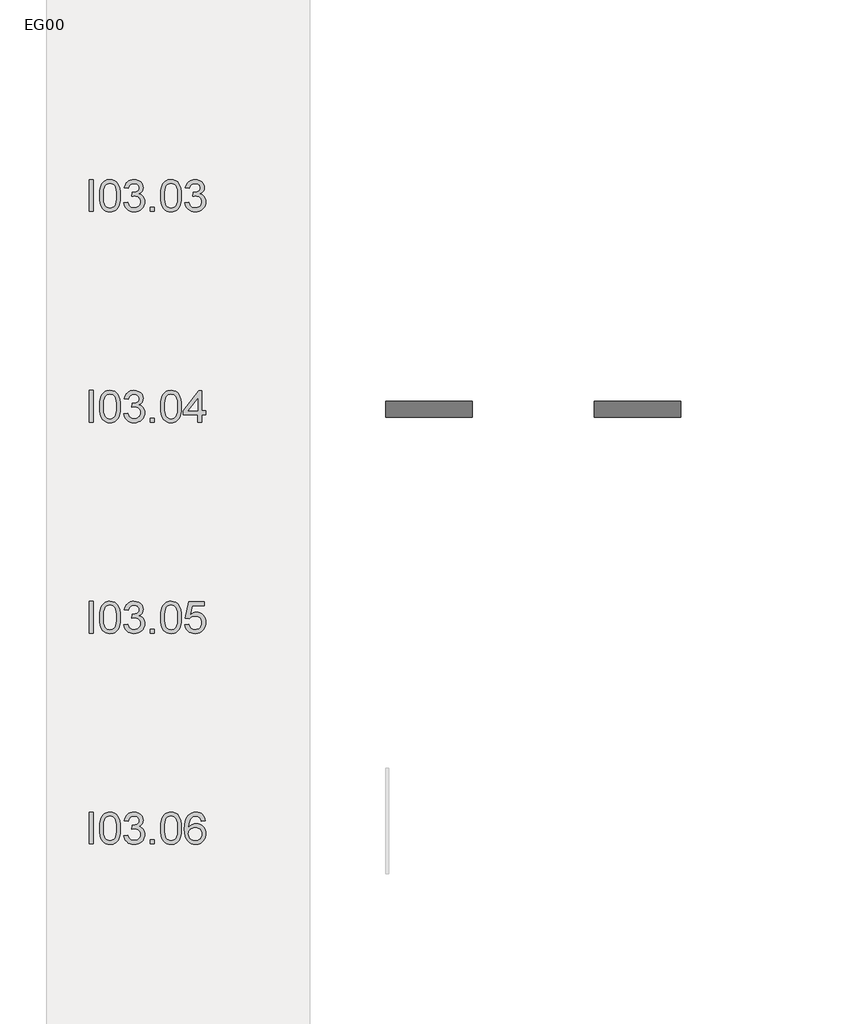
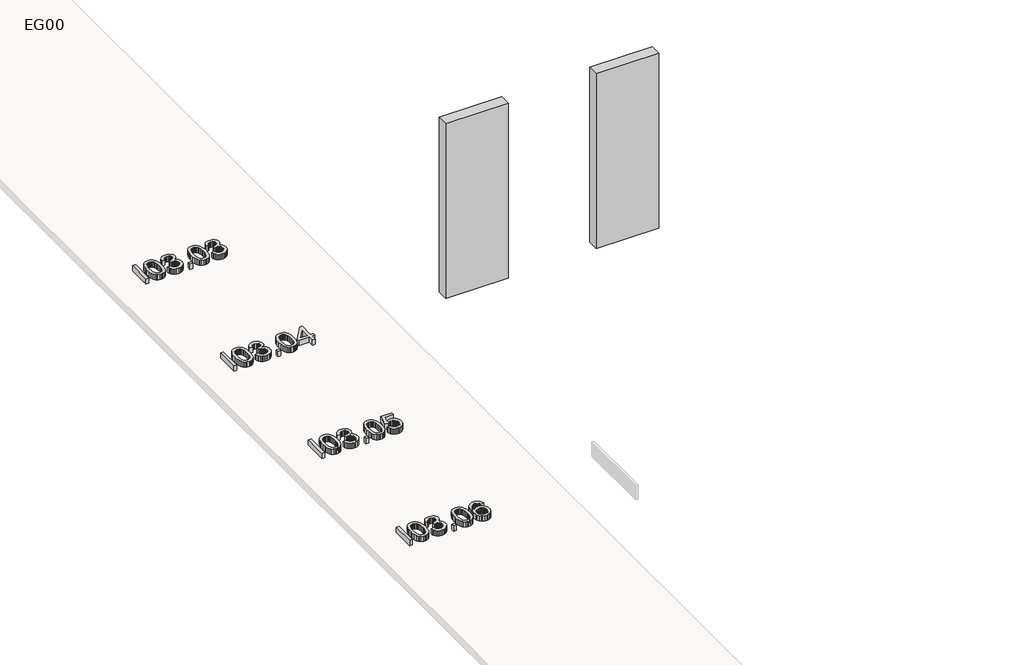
# One storey, part 8 of 11: 4 proxies, 2 geographic elements.
"""IFC4 building model written with IfcOpenShell, lengths in millimetres."""

import ifcopenshell
import ifcopenshell.guid

model = None  # the IFC model being written
_history = None  # IfcOwnerHistory: only IFC2X3 demands one
_inside = {}  # id of a spatial element -> (the spatial element, [elements in it])
_under = {}  # id of a project, library or spatial element -> (it, [spatial elements below it])
_declared = {}  # id of a project -> (the project, [libraries it declares])
_typed = {}  # id of a type object -> (the type object, [elements of that type])
_made_of = {}  # id of a material, layer set ... -> (it, [elements and type objects made of it])


def new_model(schema):
    """Start an empty IFC model of exactly this schema.

    Asked for "IFC4X3", IfcOpenShell would pick the latest addendum, in which some entities
    have other attributes; the version numbers below select the first issue.
    IFC2X3 requires an IfcOwnerHistory on every rooted entity: one is made here for all.
    """
    global model, _history
    if schema == "IFC4X3":
        model = ifcopenshell.file(schema_version=(4, 3, 0, 0))
    else:
        model = ifcopenshell.file(schema=schema)
    _inside.clear()
    _under.clear()
    _declared.clear()
    _typed.clear()
    _made_of.clear()
    _history = None
    if model.schema == "IFC2X3":
        org = make("IfcOrganization", Name="unknown")
        user = make(
            "IfcPersonAndOrganization",
            ThePerson=make("IfcPerson", FamilyName="unknown"),
            TheOrganization=org,
        )
        app = make(
            "IfcApplication",
            ApplicationDeveloper=org,
            Version="unknown",
            ApplicationFullName="unknown",
            ApplicationIdentifier="unknown",
        )
        _history = make(
            "IfcOwnerHistory",
            OwningUser=user,
            OwningApplication=app,
            ChangeAction="ADDED",
            CreationDate=0,
        )
    return model


def make(cls, **values):
    """One entity of the class cls with the attributes given. An attribute that is None is left unset."""
    return model.create_entity(
        cls, **{name: value for name, value in values.items() if value is not None}
    )


def rooted(cls, **values):
    """An entity with a GlobalId (a new one), such as an element, a storey or a relation."""
    return make(cls, GlobalId=ifcopenshell.guid.new(), OwnerHistory=_history, **values)


def si_unit(unit_type, name, prefix=None):
    """IfcSIUnit, for example si_unit("LENGTHUNIT", "METRE", prefix="MILLI")."""
    return make("IfcSIUnit", UnitType=unit_type, Prefix=prefix, Name=name)


def assignment(units):
    """IfcUnitAssignment: the units of a project."""
    return None if units is None else make("IfcUnitAssignment", Units=units)


def point(xyz):
    """IfcCartesianPoint."""
    return None if xyz is None else make("IfcCartesianPoint", Coordinates=xyz)


def direction(xyz):
    """IfcDirection."""
    return None if xyz is None else make("IfcDirection", DirectionRatios=xyz)


def frame(location, z_axis=None, x_axis=None):
    """IfcAxis2Placement3D, a coordinate frame: its origin and axes. An axis left out is left unset."""
    return make(
        "IfcAxis2Placement3D",
        Location=point(location),
        Axis=direction(z_axis),
        RefDirection=direction(x_axis),
    )


def origin():
    """The frame at (0, 0, 0) with its axes left unset."""
    return frame((0.0, 0.0, 0.0))


def origin_with_axes():
    """The frame at (0, 0, 0) with the z axis (0, 0, 1) and the x axis (1, 0, 0) written out."""
    return frame((0.0, 0.0, 0.0), z_axis=(0.0, 0.0, 1.0), x_axis=(1.0, 0.0, 0.0))


def place(relative_to, where):
    """IfcLocalPlacement: puts the frame where relative to a parent placement (None: the world)."""
    return make(
        "IfcLocalPlacement", PlacementRelTo=relative_to, RelativePlacement=where
    )


def context(
    kind, dimensions, precision=None, world=None, true_north=None, identifier=None
):
    """IfcGeometricRepresentationContext, for example the 3D "Model" context."""
    return make(
        "IfcGeometricRepresentationContext",
        ContextIdentifier=identifier,
        ContextType=kind,
        CoordinateSpaceDimension=dimensions,
        Precision=precision,
        WorldCoordinateSystem=world,
        TrueNorth=true_north,
    )


def project(units=None, contexts=None):
    """IfcProject with its units and contexts."""
    return rooted(
        "IfcProject",
        Name="project",
        RepresentationContexts=contexts,
        UnitsInContext=assignment(units),
    )


def spatial(cls, under=None, at=None, **own):
    """A site, building, storey or space (cls), placed at a placement, below another one or the project."""
    s = rooted(cls, ObjectPlacement=at, **own)
    if under is not None:
        _under.setdefault(under.id(), (under, []))[1].append(s)
    return s


def polyline(points):
    """IfcPolyline through the points."""
    return make("IfcPolyline", Points=[point(p) for p in points])


def outline(outer, holes=None, kind="AREA"):
    """IfcArbitraryClosedProfileDef: a profile drawn as a closed curve; with holes, ...WithVoids."""
    if holes is None:
        return make("IfcArbitraryClosedProfileDef", ProfileType=kind, OuterCurve=outer)
    return make(
        "IfcArbitraryProfileDefWithVoids",
        ProfileType=kind,
        OuterCurve=outer,
        InnerCurves=holes,
    )


def extrude(swept, where, along, depth):
    """IfcExtrudedAreaSolid: the profile swept, set in the frame where, extruded along a direction by depth."""
    return make(
        "IfcExtrudedAreaSolid",
        SweptArea=swept,
        Position=where,
        ExtrudedDirection=direction(along),
        Depth=depth,
    )


def shape(context_of_items, identifier, shape_type, items):
    """IfcShapeRepresentation: the items that make up one representation, for example the "Body"."""
    return make(
        "IfcShapeRepresentation",
        ContextOfItems=context_of_items,
        RepresentationIdentifier=identifier,
        RepresentationType=shape_type,
        Items=items,
    )


def source(mapping_origin, context_of_items, identifier, shape_type, items):
    """IfcRepresentationMap: a shape defined once, which mapped items show again and again."""
    return make(
        "IfcRepresentationMap",
        MappingOrigin=mapping_origin,
        MappedRepresentation=shape(context_of_items, identifier, shape_type, items),
    )


def transform(
    local_origin,
    x_axis=None,
    y_axis=None,
    z_axis=None,
    scale=None,
    scale2=None,
    scale3=None,
    uniform=True,
):
    """IfcCartesianTransformationOperator3D, or its non-uniform kind. x_axis, y_axis, z_axis: its Axis1, 2, 3."""
    if uniform:
        return make(
            "IfcCartesianTransformationOperator3D",
            Axis1=direction(x_axis),
            Axis2=direction(y_axis),
            LocalOrigin=point(local_origin),
            Scale=scale,
            Axis3=direction(z_axis),
        )
    return make(
        "IfcCartesianTransformationOperator3DnonUniform",
        Axis1=direction(x_axis),
        Axis2=direction(y_axis),
        LocalOrigin=point(local_origin),
        Scale=scale,
        Axis3=direction(z_axis),
        Scale2=scale2,
        Scale3=scale3,
    )


def mapped(mapping_source, mapping_target):
    """IfcMappedItem: shows the shape of a source again, moved by a transform."""
    return make(
        "IfcMappedItem", MappingSource=mapping_source, MappingTarget=mapping_target
    )


def made_of(thing, what):
    """Note that an element or type object is made of a material, layer set ...; save() writes the relation."""
    if what is not None:
        _made_of.setdefault(what.id(), (what, []))[1].append(thing)
    return thing


def element(
    cls,
    number,
    at=None,
    inside=None,
    cuts=None,
    type_object=None,
    material=None,
    context=None,
    identifier="Body",
    shape_type=None,
    held_by="IfcProductDefinitionShape",
    body=None,
    shapes=None,
    **own,
):
    """One element of the class cls, such as IfcWall. Its Tag is "e" and its number.

    at: its placement. inside: the storey or other place that contains it. cuts: it is an
    opening in that element (IfcRelVoidsElement). A single representation is given by context,
    identifier, shape_type and body (its items); several are given by shapes. held_by: the class
    of the entity that holds the representations. save() writes the other relations.
    """
    e = rooted(cls, Tag="e%d" % number, ObjectPlacement=at, **own)
    if body is not None:
        shapes = [shape(context, identifier, shape_type, body)]
    if shapes is not None:
        e.Representation = make(held_by, Representations=shapes)
    if inside is not None:
        _inside.setdefault(inside.id(), (inside, []))[1].append(e)
    if cuts is not None:
        rooted(
            "IfcRelVoidsElement", RelatingBuildingElement=cuts, RelatedOpeningElement=e
        )
    if type_object is not None:
        _typed.setdefault(type_object.id(), (type_object, []))[1].append(e)
    return made_of(e, material)


def aggregate(whole, parts):
    """IfcRelAggregates: a whole, such as a stair, and the parts it consists of."""
    return rooted("IfcRelAggregates", RelatingObject=whole, RelatedObjects=parts)


def save(model, path):
    """Write the relations noted so far, then the file.

    IfcRelAggregates (storeys below a building ...), IfcRelContainedInSpatialStructure (elements
    in a storey), IfcRelDefinesByType, IfcRelAssociatesMaterial and IfcRelDeclares: one each for
    every whole, place, type object, material and project.
    """
    for whole, parts in _under.values():
        aggregate(whole, parts)
    for where, things in _inside.values():
        rooted(
            "IfcRelContainedInSpatialStructure",
            RelatedElements=things,
            RelatingStructure=where,
        )
    for kind, things in _typed.values():
        rooted("IfcRelDefinesByType", RelatedObjects=things, RelatingType=kind)
    for what, things in _made_of.values():
        rooted("IfcRelAssociatesMaterial", RelatedObjects=things, RelatingMaterial=what)
    for by, libraries in _declared.values():
        rooted("IfcRelDeclares", RelatingContext=by, RelatedDefinitions=libraries)
    model.write(path)


def geographic_element_ed2dfa5e(model_context):
    return source(origin(), model_context, "Body", "SweptSolid", [
        extrude(outline(polyline([(820.6394348, 0.4411732), (-821.1992595, 0.4411732), (-821.1992595, 300.4411732), (820.6394348, 300.4411732), (820.6394348, 0.4411732)])), origin_with_axes(), (0.0, 0.0, 1.0), 4861.7807301),
    ])


model = new_model("IFC4")

# Units and contexts
model_context = context("Model", 3, world=origin())
ifc_project = project(units=[si_unit("LENGTHUNIT", "METRE", prefix="MILLI")], contexts=[model_context])

# Site, building, storey
site = spatial("IfcSite", under=ifc_project)
building = spatial("IfcBuilding", under=site)
storey = spatial("IfcBuildingStorey", under=building, Name="EG00", Elevation=0.0)

# Proxies
placement = place(None, origin())
element("IfcBuildingElementProxy", 1, Name="600mm Arial", ObjectType="600mm Arial", at=placement, inside=storey, context=model_context, shape_type="SweptSolid", body=[
    extrude(outline(polyline([(41098.4530284, -46070.0529019), (41098.4530284, -45467.315041), (41173.795261, -45467.315041), (41173.795261, -46070.0529019), (41098.4530284, -46070.0529019)])), origin_with_axes(), (0.0, 0.0, 1.0), 150.0),
    extrude(outline(polyline([(41296.226389, -45773.5400137), (41301.763013, -45677.0629605), (41308.6837931, -45636.1498841), (41318.3728851, -45600.1204412), (41330.7889025, -45568.6803262), (41345.8904584, -45541.5352335), (41363.6775528, -45518.6851631), (41384.1501859, -45500.1301149), (41407.3773353, -45485.7735201), (41433.4279791, -45475.5188095), (41462.3021172, -45469.3659831), (41493.9997496, -45467.315041), (41540.4264574, -45472.1710833), (41581.9971229, -45486.7392103), (41616.7619714, -45510.4492049), (41642.7712285, -45542.73085), (41662.416127, -45583.308234), (41678.0879, -45631.9054456), (41688.3518077, -45693.6176503), (41691.7731102, -45773.5400137), (41686.2916685, -45869.465244), (41679.4398663, -45910.2403646), (41669.8473433, -45946.2238223), (41657.527895, -45977.6777329), (41642.495317, -46004.8642123), (41624.7496092, -46027.7832606), (41604.2907718, -46046.4348778), (41581.0360312, -46060.8880417), (41554.9026139, -46071.2117301), (41525.8905201, -46077.4059432), (41493.9997496, -46079.4706809), (41452.5026606, -46075.8838315), (41415.7144611, -46065.1232831), (41383.6351511, -46047.1890359), (41356.2647306, -46022.0810897), (41329.9979562, -45976.6936485), (41311.2359744, -45920.1409888), (41299.9787854, -45852.4231106), (41296.226389, -45773.5400137)]), holes=[polyline([(41371.5686216, -45773.3928609), (41373.7759136, -45838.8896517), (41380.3977895, -45891.9060457), (41391.4342494, -45932.442043), (41406.8852932, -45960.4976437), (41425.5736985, -45979.5861207), (41446.3222431, -45993.2207472), (41469.1309268, -46001.401523), (41493.9997496, -46004.1284483), (41518.8685725, -46001.392326), (41541.6772562, -45993.183959), (41562.4258007, -45979.5033473), (41581.1142061, -45960.3504909), (41596.5652499, -45932.248905), (41607.6017097, -45891.7221047), (41614.2235857, -45838.77009), (41616.4308776, -45773.3928609), (41614.2971621, -45709.6297141), (41607.8960153, -45657.5468207), (41597.2274375, -45617.1441805), (41582.2914285, -45588.4217938), (41563.9157228, -45568.3998162), (41542.928055, -45554.0984036), (41519.328425, -45545.5175561), (41493.1168328, -45542.6572736), (41468.3767687, -45545.1772652), (41445.9543611, -45552.7372402), (41425.84961, -45565.3371986), (41408.0625156, -45582.9771402), (41392.096437, -45614.2471098), (41380.6920951, -45656.4063865), (41373.84949, -45709.4549702), (41371.5686216, -45773.3928609)])]), origin_with_axes(), (0.0, 0.0, 1.0), 150.0),
    extrude(outline(polyline([(41757.6975638, -45909.9506576), (41833.0397964, -45900.5328785), (41849.9071859, -45947.8792913), (41861.279338, -45965.7859474), (41874.6104618, -45979.8482366), (41890.2040599, -45990.4708293), (41908.3636349, -45998.0583954), (41929.0891868, -46002.6109351), (41952.3807156, -46004.1284483), (41979.6775597, -46002.040718), (42004.0313477, -45995.777527), (42025.4420799, -45985.3388754), (42043.909756, -45970.7247632), (42058.7813857, -45953.0296392), (42069.4039783, -45933.3479525), (42075.7775338, -45911.6797029), (42077.9020524, -45888.0248906), (42075.7959279, -45865.496717), (42069.4775547, -45845.0010913), (42058.9469326, -45826.5380137), (42044.2040616, -45810.1074841), (42026.214632, -45796.6200104), (42005.9443341, -45786.9861007), (41983.3931678, -45781.2057548), (41958.5611331, -45779.2789729), (41934.759168, -45781.339112), (41905.7332786, -45787.5195296), (41914.1209881, -45712.177297), (41926.1875176, -45713.0602137), (41971.3266384, -45707.6523484), (42011.6832932, -45691.4287524), (42028.2931653, -45679.1598879), (42040.1573597, -45663.9847556), (42047.2758763, -45645.9033555), (42049.6487151, -45624.9156877), (42047.9288668, -45607.8781528), (42042.7693218, -45592.3765252), (42034.1700802, -45578.410805), (42022.1311419, -45565.9809921), (42007.3790739, -45555.7768652), (41990.6404431, -45548.4882032), (41951.2034932, -45542.6572736), (41930.5469192, -45544.1288016), (41911.692967, -45548.5433855), (41894.6416365, -45555.9010254), (41879.3929278, -45566.2017213), (41866.3239199, -45579.4454731), (41855.8116919, -45595.6322809), (41847.8562437, -45614.7621446), (41842.4575755, -45636.8350643), (41767.1153428, -45627.4172853), (41776.0456783, -45591.4476232), (41789.2986272, -45559.7637864), (41806.8741895, -45532.3657748), (41828.7723652, -45509.2535884), (41854.3033757, -45490.9054739), (41882.7774421, -45477.7996778), (41914.1945645, -45469.9362002), (41948.5547429, -45467.315041), (41995.9195497, -45472.483783), (42039.4215957, -45487.9900091), (42076.0994306, -45512.4541618), (42102.9916044, -45544.4966836), (42119.4911119, -45581.4136418), (42124.9909478, -45620.5011038), (42119.7670234, -45656.9214213), (42104.0952504, -45689.9572244), (42078.196358, -45718.1001971), (42042.2910752, -45739.842023), (42067.3990214, -45747.6963036), (42089.453547, -45758.8983103), (42108.4546521, -45773.4480432), (42124.4023366, -45791.3455023), (42137.020689, -45812.1492291), (42146.0337979, -45835.4177653), (42151.4416632, -45861.1511109), (42153.244285, -45889.3492658), (42149.6390414, -45927.5722051), (42138.8233108, -45962.7785121), (42120.797093, -45994.9681866), (42095.5603881, -46024.1412289), (42064.8146504, -46048.3478641), (42030.261334, -46065.6383179), (41991.9004389, -46076.0125902), (41949.7319653, -46079.4706809), (41911.6193906, -46076.5184279), (41876.8913302, -46067.6616689), (41845.5477842, -46052.9004038), (41817.5887526, -46032.2346328), (41794.1454724, -46006.8783662), (41776.3491809, -45978.0456149), (41764.199878, -45945.7363786), (41757.6975638, -45909.9506576)])), origin_with_axes(), (0.0, 0.0, 1.0), 150.0),
    extrude(outline(polyline([(42256.8398548, -46070.0529019), (42256.8398548, -45994.7106692), (42332.1820874, -45994.7106692), (42332.1820874, -46070.0529019), (42256.8398548, -46070.0529019)])), origin_with_axes(), (0.0, 0.0, 1.0), 150.0),
    extrude(outline(polyline([(42454.6132154, -45773.5400137), (42460.1498395, -45677.0629605), (42467.0706195, -45636.1498841), (42476.7597115, -45600.1204412), (42489.1757289, -45568.6803262), (42504.2772848, -45541.5352335), (42522.0643792, -45518.6851631), (42542.5370123, -45500.1301149), (42565.7641618, -45485.7735201), (42591.8148055, -45475.5188095), (42620.6889436, -45469.3659831), (42652.386576, -45467.315041), (42698.8132838, -45472.1710833), (42740.3839493, -45486.7392103), (42775.1487978, -45510.4492049), (42801.1580549, -45542.73085), (42820.8029534, -45583.308234), (42836.4747264, -45631.9054456), (42846.7386341, -45693.6176503), (42850.1599366, -45773.5400137), (42844.6784949, -45869.465244), (42837.8266928, -45910.2403646), (42828.2341697, -45946.2238223), (42815.9147214, -45977.6777329), (42800.8821434, -46004.8642123), (42783.1364357, -46027.7832606), (42762.6775982, -46046.4348778), (42739.4228576, -46060.8880417), (42713.2894403, -46071.2117301), (42684.2773465, -46077.4059432), (42652.386576, -46079.4706809), (42610.889487, -46075.8838315), (42574.1012875, -46065.1232831), (42542.0219775, -46047.1890359), (42514.651557, -46022.0810897), (42488.3847826, -45976.6936485), (42469.6228008, -45920.1409888), (42458.3656118, -45852.4231106), (42454.6132154, -45773.5400137)]), holes=[polyline([(42529.955448, -45773.3928609), (42532.16274, -45838.8896517), (42538.7846159, -45891.9060457), (42549.8210758, -45932.442043), (42565.2721196, -45960.4976437), (42583.9605249, -45979.5861207), (42604.7090695, -45993.2207472), (42627.5177532, -46001.401523), (42652.386576, -46004.1284483), (42677.2553989, -46001.392326), (42700.0640826, -45993.183959), (42720.8126271, -45979.5033473), (42739.5010325, -45960.3504909), (42754.9520763, -45932.248905), (42765.9885362, -45891.7221047), (42772.6104121, -45838.77009), (42774.817704, -45773.3928609), (42772.6839885, -45709.6297141), (42766.2828417, -45657.5468207), (42755.6142639, -45617.1441805), (42740.6782549, -45588.4217938), (42722.3025492, -45568.3998162), (42701.3148814, -45554.0984036), (42677.7152514, -45545.5175561), (42651.5036593, -45542.6572736), (42626.7635951, -45545.1772652), (42604.3411875, -45552.7372402), (42584.2364364, -45565.3371986), (42566.449342, -45582.9771402), (42550.4832634, -45614.2471098), (42539.0789215, -45656.4063865), (42532.2363164, -45709.4549702), (42529.955448, -45773.3928609)])]), origin_with_axes(), (0.0, 0.0, 1.0), 150.0),
    extrude(outline(polyline([(42916.0843902, -45909.9506576), (42991.4266228, -45900.5328785), (43008.2940123, -45947.8792913), (43019.6661644, -45965.7859474), (43032.9972882, -45979.8482366), (43048.5908863, -45990.4708293), (43066.7504613, -45998.0583954), (43087.4760132, -46002.6109351), (43110.767542, -46004.1284483), (43138.0643861, -46002.040718), (43162.4181742, -45995.777527), (43183.8289063, -45985.3388754), (43202.2965824, -45970.7247632), (43217.1682121, -45953.0296392), (43227.7908047, -45933.3479525), (43234.1643603, -45911.6797029), (43236.2888788, -45888.0248906), (43234.1827544, -45865.496717), (43227.8643811, -45845.0010913), (43217.333759, -45826.5380137), (43202.590888, -45810.1074841), (43184.6014585, -45796.6200104), (43164.3311605, -45786.9861007), (43141.7799942, -45781.2057548), (43116.9479595, -45779.2789729), (43093.1459945, -45781.339112), (43064.120105, -45787.5195296), (43072.5078145, -45712.177297), (43084.574344, -45713.0602137), (43129.7134648, -45707.6523484), (43170.0701197, -45691.4287524), (43186.6799917, -45679.1598879), (43198.5441861, -45663.9847556), (43205.6627027, -45645.9033555), (43208.0355416, -45624.9156877), (43206.3156932, -45607.8781528), (43201.1561482, -45592.3765252), (43192.5569066, -45578.410805), (43180.5179683, -45565.9809921), (43165.7659003, -45555.7768652), (43149.0272695, -45548.4882032), (43109.5903196, -45542.6572736), (43088.9337456, -45544.1288016), (43070.0797934, -45548.5433855), (43053.0284629, -45555.9010254), (43037.7797542, -45566.2017213), (43024.7107463, -45579.4454731), (43014.1985183, -45595.6322809), (43006.2430702, -45614.7621446), (43000.8444019, -45636.8350643), (42925.5021693, -45627.4172853), (42934.4325047, -45591.4476232), (42947.6854536, -45559.7637864), (42965.2610159, -45532.3657748), (42987.1591917, -45509.2535884), (43012.6902021, -45490.9054739), (43041.1642685, -45477.7996778), (43072.5813909, -45469.9362002), (43106.9415693, -45467.315041), (43154.3063762, -45472.483783), (43197.8084221, -45487.9900091), (43234.486257, -45512.4541618), (43261.3784309, -45544.4966836), (43277.8779383, -45581.4136418), (43283.3777742, -45620.5011038), (43278.1538498, -45656.9214213), (43262.4820768, -45689.9572244), (43236.5831844, -45718.1001971), (43200.6779017, -45739.842023), (43225.7858478, -45747.6963036), (43247.8403734, -45758.8983103), (43266.8414785, -45773.4480432), (43282.789163, -45791.3455023), (43295.4075154, -45812.1492291), (43304.4206243, -45835.4177653), (43309.8284896, -45861.1511109), (43311.6311114, -45889.3492658), (43308.0258678, -45927.5722051), (43297.2101372, -45962.7785121), (43279.1839194, -45994.9681866), (43253.9472146, -46024.1412289), (43223.2014768, -46048.3478641), (43188.6481604, -46065.6383179), (43150.2872654, -46076.0125902), (43108.1187917, -46079.4706809), (43070.006217, -46076.5184279), (43035.2781566, -46067.6616689), (43003.9346106, -46052.9004038), (42975.975579, -46032.2346328), (42952.5322989, -46006.8783662), (42934.7360073, -45978.0456149), (42922.5867044, -45945.7363786), (42916.0843902, -45909.9506576)])), origin_with_axes(), (0.0, 0.0, 1.0), 150.0),
])
element("IfcBuildingElementProxy", 2, Name="600mm Arial", ObjectType="600mm Arial", at=placement, inside=storey, context=model_context, shape_type="SweptSolid", body=[
    extrude(outline(polyline([(41098.4530284, -50070.0529019), (41098.4530284, -49467.315041), (41173.795261, -49467.315041), (41173.795261, -50070.0529019), (41098.4530284, -50070.0529019)])), origin_with_axes(), (0.0, 0.0, 1.0), 150.0),
    extrude(outline(polyline([(41296.226389, -49773.5400137), (41301.763013, -49677.0629605), (41308.6837931, -49636.1498841), (41318.3728851, -49600.1204412), (41330.7889025, -49568.6803262), (41345.8904584, -49541.5352335), (41363.6775528, -49518.6851631), (41384.1501859, -49500.1301149), (41407.3773353, -49485.7735201), (41433.4279791, -49475.5188095), (41462.3021172, -49469.3659831), (41493.9997496, -49467.315041), (41540.4264574, -49472.1710833), (41581.9971229, -49486.7392103), (41616.7619714, -49510.4492049), (41642.7712285, -49542.73085), (41662.416127, -49583.308234), (41678.0879, -49631.9054456), (41688.3518077, -49693.6176503), (41691.7731102, -49773.5400137), (41686.2916685, -49869.465244), (41679.4398663, -49910.2403646), (41669.8473433, -49946.2238223), (41657.527895, -49977.6777329), (41642.495317, -50004.8642123), (41624.7496092, -50027.7832606), (41604.2907718, -50046.4348778), (41581.0360312, -50060.8880417), (41554.9026139, -50071.2117301), (41525.8905201, -50077.4059432), (41493.9997496, -50079.4706809), (41452.5026606, -50075.8838315), (41415.7144611, -50065.1232831), (41383.6351511, -50047.1890359), (41356.2647306, -50022.0810897), (41329.9979562, -49976.6936485), (41311.2359744, -49920.1409888), (41299.9787854, -49852.4231106), (41296.226389, -49773.5400137)]), holes=[polyline([(41371.5686216, -49773.3928609), (41373.7759136, -49838.8896517), (41380.3977895, -49891.9060457), (41391.4342494, -49932.442043), (41406.8852932, -49960.4976437), (41425.5736985, -49979.5861207), (41446.3222431, -49993.2207472), (41469.1309268, -50001.401523), (41493.9997496, -50004.1284483), (41518.8685725, -50001.392326), (41541.6772562, -49993.183959), (41562.4258007, -49979.5033473), (41581.1142061, -49960.3504909), (41596.5652499, -49932.248905), (41607.6017097, -49891.7221047), (41614.2235857, -49838.77009), (41616.4308776, -49773.3928609), (41614.2971621, -49709.6297141), (41607.8960153, -49657.5468207), (41597.2274375, -49617.1441805), (41582.2914285, -49588.4217938), (41563.9157228, -49568.3998162), (41542.928055, -49554.0984036), (41519.328425, -49545.5175561), (41493.1168328, -49542.6572736), (41468.3767687, -49545.1772652), (41445.9543611, -49552.7372402), (41425.84961, -49565.3371986), (41408.0625156, -49582.9771402), (41392.096437, -49614.2471098), (41380.6920951, -49656.4063865), (41373.84949, -49709.4549702), (41371.5686216, -49773.3928609)])]), origin_with_axes(), (0.0, 0.0, 1.0), 150.0),
    extrude(outline(polyline([(41757.6975638, -49909.9506576), (41833.0397964, -49900.5328785), (41849.9071859, -49947.8792913), (41861.279338, -49965.7859474), (41874.6104618, -49979.8482366), (41890.2040599, -49990.4708293), (41908.3636349, -49998.0583954), (41929.0891868, -50002.6109351), (41952.3807156, -50004.1284483), (41979.6775597, -50002.040718), (42004.0313477, -49995.777527), (42025.4420799, -49985.3388754), (42043.909756, -49970.7247632), (42058.7813857, -49953.0296392), (42069.4039783, -49933.3479525), (42075.7775338, -49911.6797029), (42077.9020524, -49888.0248906), (42075.7959279, -49865.496717), (42069.4775547, -49845.0010913), (42058.9469326, -49826.5380137), (42044.2040616, -49810.1074841), (42026.214632, -49796.6200104), (42005.9443341, -49786.9861007), (41983.3931678, -49781.2057548), (41958.5611331, -49779.2789729), (41934.759168, -49781.339112), (41905.7332786, -49787.5195296), (41914.1209881, -49712.177297), (41926.1875176, -49713.0602137), (41971.3266384, -49707.6523484), (42011.6832932, -49691.4287524), (42028.2931653, -49679.1598879), (42040.1573597, -49663.9847556), (42047.2758763, -49645.9033555), (42049.6487151, -49624.9156877), (42047.9288668, -49607.8781528), (42042.7693218, -49592.3765252), (42034.1700802, -49578.410805), (42022.1311419, -49565.9809921), (42007.3790739, -49555.7768652), (41990.6404431, -49548.4882032), (41951.2034932, -49542.6572736), (41930.5469192, -49544.1288016), (41911.692967, -49548.5433855), (41894.6416365, -49555.9010254), (41879.3929278, -49566.2017213), (41866.3239199, -49579.4454731), (41855.8116919, -49595.6322809), (41847.8562437, -49614.7621446), (41842.4575755, -49636.8350643), (41767.1153428, -49627.4172853), (41776.0456783, -49591.4476232), (41789.2986272, -49559.7637864), (41806.8741895, -49532.3657748), (41828.7723652, -49509.2535884), (41854.3033757, -49490.9054739), (41882.7774421, -49477.7996778), (41914.1945645, -49469.9362002), (41948.5547429, -49467.315041), (41995.9195497, -49472.483783), (42039.4215957, -49487.9900091), (42076.0994306, -49512.4541618), (42102.9916044, -49544.4966836), (42119.4911119, -49581.4136418), (42124.9909478, -49620.5011038), (42119.7670234, -49656.9214213), (42104.0952504, -49689.9572244), (42078.196358, -49718.1001971), (42042.2910752, -49739.842023), (42067.3990214, -49747.6963036), (42089.453547, -49758.8983103), (42108.4546521, -49773.4480432), (42124.4023366, -49791.3455023), (42137.020689, -49812.1492291), (42146.0337979, -49835.4177653), (42151.4416632, -49861.1511109), (42153.244285, -49889.3492658), (42149.6390414, -49927.5722051), (42138.8233108, -49962.7785121), (42120.797093, -49994.9681866), (42095.5603881, -50024.1412289), (42064.8146504, -50048.3478641), (42030.261334, -50065.6383179), (41991.9004389, -50076.0125902), (41949.7319653, -50079.4706809), (41911.6193906, -50076.5184279), (41876.8913302, -50067.6616689), (41845.5477842, -50052.9004038), (41817.5887526, -50032.2346328), (41794.1454724, -50006.8783662), (41776.3491809, -49978.0456149), (41764.199878, -49945.7363786), (41757.6975638, -49909.9506576)])), origin_with_axes(), (0.0, 0.0, 1.0), 150.0),
    extrude(outline(polyline([(42256.8398548, -50070.0529019), (42256.8398548, -49994.7106692), (42332.1820874, -49994.7106692), (42332.1820874, -50070.0529019), (42256.8398548, -50070.0529019)])), origin_with_axes(), (0.0, 0.0, 1.0), 150.0),
    extrude(outline(polyline([(42454.6132154, -49773.5400137), (42460.1498395, -49677.0629605), (42467.0706195, -49636.1498841), (42476.7597115, -49600.1204412), (42489.1757289, -49568.6803262), (42504.2772848, -49541.5352335), (42522.0643792, -49518.6851631), (42542.5370123, -49500.1301149), (42565.7641618, -49485.7735201), (42591.8148055, -49475.5188095), (42620.6889436, -49469.3659831), (42652.386576, -49467.315041), (42698.8132838, -49472.1710833), (42740.3839493, -49486.7392103), (42775.1487978, -49510.4492049), (42801.1580549, -49542.73085), (42820.8029534, -49583.308234), (42836.4747264, -49631.9054456), (42846.7386341, -49693.6176503), (42850.1599366, -49773.5400137), (42844.6784949, -49869.465244), (42837.8266928, -49910.2403646), (42828.2341697, -49946.2238223), (42815.9147214, -49977.6777329), (42800.8821434, -50004.8642123), (42783.1364357, -50027.7832606), (42762.6775982, -50046.4348778), (42739.4228576, -50060.8880417), (42713.2894403, -50071.2117301), (42684.2773465, -50077.4059432), (42652.386576, -50079.4706809), (42610.889487, -50075.8838315), (42574.1012875, -50065.1232831), (42542.0219775, -50047.1890359), (42514.651557, -50022.0810897), (42488.3847826, -49976.6936485), (42469.6228008, -49920.1409888), (42458.3656118, -49852.4231106), (42454.6132154, -49773.5400137)]), holes=[polyline([(42529.955448, -49773.3928609), (42532.16274, -49838.8896517), (42538.7846159, -49891.9060457), (42549.8210758, -49932.442043), (42565.2721196, -49960.4976437), (42583.9605249, -49979.5861207), (42604.7090695, -49993.2207472), (42627.5177532, -50001.401523), (42652.386576, -50004.1284483), (42677.2553989, -50001.392326), (42700.0640826, -49993.183959), (42720.8126271, -49979.5033473), (42739.5010325, -49960.3504909), (42754.9520763, -49932.248905), (42765.9885362, -49891.7221047), (42772.6104121, -49838.77009), (42774.817704, -49773.3928609), (42772.6839885, -49709.6297141), (42766.2828417, -49657.5468207), (42755.6142639, -49617.1441805), (42740.6782549, -49588.4217938), (42722.3025492, -49568.3998162), (42701.3148814, -49554.0984036), (42677.7152514, -49545.5175561), (42651.5036593, -49542.6572736), (42626.7635951, -49545.1772652), (42604.3411875, -49552.7372402), (42584.2364364, -49565.3371986), (42566.449342, -49582.9771402), (42550.4832634, -49614.2471098), (42539.0789215, -49656.4063865), (42532.2363164, -49709.4549702), (42529.955448, -49773.3928609)])]), origin_with_axes(), (0.0, 0.0, 1.0), 150.0),
    extrude(outline(polyline([(43160.9466462, -50070.0529019), (43160.9466462, -49928.7862157), (42887.831053, -49928.7862157), (42887.831053, -49853.4439831), (43179.7822043, -49476.73282), (43236.2888788, -49476.73282), (43236.2888788, -49853.4439831), (43311.6311114, -49853.4439831), (43311.6311114, -49928.7862157), (43236.2888788, -49928.7862157), (43236.2888788, -50070.0529019), (43160.9466462, -50070.0529019)]), holes=[polyline([(43160.9466462, -49853.4439831), (43160.9466462, -49620.6482566), (42980.5373157, -49853.4439831), (43160.9466462, -49853.4439831)])]), origin_with_axes(), (0.0, 0.0, 1.0), 150.0),
])
element("IfcBuildingElementProxy", 3, Name="600mm Arial", ObjectType="600mm Arial", at=placement, inside=storey, context=model_context, shape_type="SweptSolid", body=[
    extrude(outline(polyline([(41098.4530284, -54070.0529019), (41098.4530284, -53467.315041), (41173.795261, -53467.315041), (41173.795261, -54070.0529019), (41098.4530284, -54070.0529019)])), origin_with_axes(), (0.0, 0.0, 1.0), 150.0),
    extrude(outline(polyline([(41296.226389, -53773.5400137), (41301.763013, -53677.0629605), (41308.6837931, -53636.1498841), (41318.3728851, -53600.1204412), (41330.7889025, -53568.6803262), (41345.8904584, -53541.5352335), (41363.6775528, -53518.6851631), (41384.1501859, -53500.1301149), (41407.3773353, -53485.7735201), (41433.4279791, -53475.5188095), (41462.3021172, -53469.3659831), (41493.9997496, -53467.315041), (41540.4264574, -53472.1710833), (41581.9971229, -53486.7392103), (41616.7619714, -53510.4492049), (41642.7712285, -53542.73085), (41662.416127, -53583.308234), (41678.0879, -53631.9054456), (41688.3518077, -53693.6176503), (41691.7731102, -53773.5400137), (41686.2916685, -53869.465244), (41679.4398663, -53910.2403646), (41669.8473433, -53946.2238223), (41657.527895, -53977.6777329), (41642.495317, -54004.8642123), (41624.7496092, -54027.7832606), (41604.2907718, -54046.4348778), (41581.0360312, -54060.8880417), (41554.9026139, -54071.2117301), (41525.8905201, -54077.4059432), (41493.9997496, -54079.4706809), (41452.5026606, -54075.8838315), (41415.7144611, -54065.1232831), (41383.6351511, -54047.1890359), (41356.2647306, -54022.0810897), (41329.9979562, -53976.6936485), (41311.2359744, -53920.1409888), (41299.9787854, -53852.4231106), (41296.226389, -53773.5400137)]), holes=[polyline([(41371.5686216, -53773.3928609), (41373.7759136, -53838.8896517), (41380.3977895, -53891.9060457), (41391.4342494, -53932.442043), (41406.8852932, -53960.4976437), (41425.5736985, -53979.5861207), (41446.3222431, -53993.2207472), (41469.1309268, -54001.401523), (41493.9997496, -54004.1284483), (41518.8685725, -54001.392326), (41541.6772562, -53993.183959), (41562.4258007, -53979.5033473), (41581.1142061, -53960.3504909), (41596.5652499, -53932.248905), (41607.6017097, -53891.7221047), (41614.2235857, -53838.77009), (41616.4308776, -53773.3928609), (41614.2971621, -53709.6297141), (41607.8960153, -53657.5468207), (41597.2274375, -53617.1441805), (41582.2914285, -53588.4217938), (41563.9157228, -53568.3998162), (41542.928055, -53554.0984036), (41519.328425, -53545.5175561), (41493.1168328, -53542.6572736), (41468.3767687, -53545.1772652), (41445.9543611, -53552.7372402), (41425.84961, -53565.3371986), (41408.0625156, -53582.9771402), (41392.096437, -53614.2471098), (41380.6920951, -53656.4063865), (41373.84949, -53709.4549702), (41371.5686216, -53773.3928609)])]), origin_with_axes(), (0.0, 0.0, 1.0), 150.0),
    extrude(outline(polyline([(41757.6975638, -53909.9506576), (41833.0397964, -53900.5328785), (41849.9071859, -53947.8792913), (41861.279338, -53965.7859474), (41874.6104618, -53979.8482366), (41890.2040599, -53990.4708293), (41908.3636349, -53998.0583954), (41929.0891868, -54002.6109351), (41952.3807156, -54004.1284483), (41979.6775597, -54002.040718), (42004.0313477, -53995.777527), (42025.4420799, -53985.3388754), (42043.909756, -53970.7247632), (42058.7813857, -53953.0296392), (42069.4039783, -53933.3479525), (42075.7775338, -53911.6797029), (42077.9020524, -53888.0248906), (42075.7959279, -53865.496717), (42069.4775547, -53845.0010913), (42058.9469326, -53826.5380137), (42044.2040616, -53810.1074841), (42026.214632, -53796.6200104), (42005.9443341, -53786.9861007), (41983.3931678, -53781.2057548), (41958.5611331, -53779.2789729), (41934.759168, -53781.339112), (41905.7332786, -53787.5195296), (41914.1209881, -53712.177297), (41926.1875176, -53713.0602137), (41971.3266384, -53707.6523484), (42011.6832932, -53691.4287524), (42028.2931653, -53679.1598879), (42040.1573597, -53663.9847556), (42047.2758763, -53645.9033555), (42049.6487151, -53624.9156877), (42047.9288668, -53607.8781528), (42042.7693218, -53592.3765252), (42034.1700802, -53578.410805), (42022.1311419, -53565.9809921), (42007.3790739, -53555.7768652), (41990.6404431, -53548.4882032), (41951.2034932, -53542.6572736), (41930.5469192, -53544.1288016), (41911.692967, -53548.5433855), (41894.6416365, -53555.9010254), (41879.3929278, -53566.2017213), (41866.3239199, -53579.4454731), (41855.8116919, -53595.6322809), (41847.8562437, -53614.7621446), (41842.4575755, -53636.8350643), (41767.1153428, -53627.4172853), (41776.0456783, -53591.4476232), (41789.2986272, -53559.7637864), (41806.8741895, -53532.3657748), (41828.7723652, -53509.2535884), (41854.3033757, -53490.9054739), (41882.7774421, -53477.7996778), (41914.1945645, -53469.9362002), (41948.5547429, -53467.315041), (41995.9195497, -53472.483783), (42039.4215957, -53487.9900091), (42076.0994306, -53512.4541618), (42102.9916044, -53544.4966836), (42119.4911119, -53581.4136418), (42124.9909478, -53620.5011038), (42119.7670234, -53656.9214213), (42104.0952504, -53689.9572244), (42078.196358, -53718.1001971), (42042.2910752, -53739.842023), (42067.3990214, -53747.6963036), (42089.453547, -53758.8983103), (42108.4546521, -53773.4480432), (42124.4023366, -53791.3455023), (42137.020689, -53812.1492291), (42146.0337979, -53835.4177653), (42151.4416632, -53861.1511109), (42153.244285, -53889.3492658), (42149.6390414, -53927.5722051), (42138.8233108, -53962.7785121), (42120.797093, -53994.9681866), (42095.5603881, -54024.1412289), (42064.8146504, -54048.3478641), (42030.261334, -54065.6383179), (41991.9004389, -54076.0125902), (41949.7319653, -54079.4706809), (41911.6193906, -54076.5184279), (41876.8913302, -54067.6616689), (41845.5477842, -54052.9004038), (41817.5887526, -54032.2346328), (41794.1454724, -54006.8783662), (41776.3491809, -53978.0456149), (41764.199878, -53945.7363786), (41757.6975638, -53909.9506576)])), origin_with_axes(), (0.0, 0.0, 1.0), 150.0),
    extrude(outline(polyline([(42256.8398548, -54070.0529019), (42256.8398548, -53994.7106692), (42332.1820874, -53994.7106692), (42332.1820874, -54070.0529019), (42256.8398548, -54070.0529019)])), origin_with_axes(), (0.0, 0.0, 1.0), 150.0),
    extrude(outline(polyline([(42454.6132154, -53773.5400137), (42460.1498395, -53677.0629605), (42467.0706195, -53636.1498841), (42476.7597115, -53600.1204412), (42489.1757289, -53568.6803262), (42504.2772848, -53541.5352335), (42522.0643792, -53518.6851631), (42542.5370123, -53500.1301149), (42565.7641618, -53485.7735201), (42591.8148055, -53475.5188095), (42620.6889436, -53469.3659831), (42652.386576, -53467.315041), (42698.8132838, -53472.1710833), (42740.3839493, -53486.7392103), (42775.1487978, -53510.4492049), (42801.1580549, -53542.73085), (42820.8029534, -53583.308234), (42836.4747264, -53631.9054456), (42846.7386341, -53693.6176503), (42850.1599366, -53773.5400137), (42844.6784949, -53869.465244), (42837.8266928, -53910.2403646), (42828.2341697, -53946.2238223), (42815.9147214, -53977.6777329), (42800.8821434, -54004.8642123), (42783.1364357, -54027.7832606), (42762.6775982, -54046.4348778), (42739.4228576, -54060.8880417), (42713.2894403, -54071.2117301), (42684.2773465, -54077.4059432), (42652.386576, -54079.4706809), (42610.889487, -54075.8838315), (42574.1012875, -54065.1232831), (42542.0219775, -54047.1890359), (42514.651557, -54022.0810897), (42488.3847826, -53976.6936485), (42469.6228008, -53920.1409888), (42458.3656118, -53852.4231106), (42454.6132154, -53773.5400137)]), holes=[polyline([(42529.955448, -53773.3928609), (42532.16274, -53838.8896517), (42538.7846159, -53891.9060457), (42549.8210758, -53932.442043), (42565.2721196, -53960.4976437), (42583.9605249, -53979.5861207), (42604.7090695, -53993.2207472), (42627.5177532, -54001.401523), (42652.386576, -54004.1284483), (42677.2553989, -54001.392326), (42700.0640826, -53993.183959), (42720.8126271, -53979.5033473), (42739.5010325, -53960.3504909), (42754.9520763, -53932.248905), (42765.9885362, -53891.7221047), (42772.6104121, -53838.77009), (42774.817704, -53773.3928609), (42772.6839885, -53709.6297141), (42766.2828417, -53657.5468207), (42755.6142639, -53617.1441805), (42740.6782549, -53588.4217938), (42722.3025492, -53568.3998162), (42701.3148814, -53554.0984036), (42677.7152514, -53545.5175561), (42651.5036593, -53542.6572736), (42626.7635951, -53545.1772652), (42604.3411875, -53552.7372402), (42584.2364364, -53565.3371986), (42566.449342, -53582.9771402), (42550.4832634, -53614.2471098), (42539.0789215, -53656.4063865), (42532.2363164, -53709.4549702), (42529.955448, -53773.3928609)])]), origin_with_axes(), (0.0, 0.0, 1.0), 150.0),
    extrude(outline(polyline([(42916.0843902, -53909.9506576), (42991.4266228, -53900.5328785), (42997.0552173, -53924.7533093), (43005.2589858, -53945.7639698), (43016.0379283, -53963.5648598), (43029.3920447, -53978.1559795), (43045.2937439, -53989.5189346), (43063.7154348, -53997.6353311), (43084.6571174, -54002.505169), (43108.1187917, -54004.1284483), (43136.8135873, -54001.8705726), (43162.1238686, -53995.0969453), (43184.0496355, -53983.8075666), (43202.590888, -53968.0024364), (43217.333759, -53948.4633039), (43227.8643811, -53925.9719184), (43234.1827544, -53900.52828), (43236.2888788, -53872.1323885), (43234.3161116, -53845.2953969), (43228.39781, -53821.4382495), (43218.533974, -53800.5609463), (43204.7246036, -53782.6634872), (43186.9237136, -53768.3068924), (43165.0853186, -53758.0521818), (43139.2094188, -53751.8993554), (43109.296014, -53749.8484133), (43072.7469378, -53753.122563), (43043.1508313, -53762.9450123), (43019.5144131, -53777.9913859), (43000.8444019, -53796.9373086), (42925.5021693, -53787.5195296), (42991.4266228, -53476.73282), (43283.3777742, -53476.73282), (43283.3777742, -53552.0750527), (43052.3478812, -53552.0750527), (43020.1214184, -53718.0634089), (43046.7100896, -53699.0071215), (43073.9425543, -53685.3954877), (43101.8188125, -53677.2285074), (43130.3388642, -53674.5061806), (43167.0304947, -53677.881498), (43200.733084, -53688.0074499), (43231.446632, -53704.8840364), (43259.1711389, -53728.5112575), (43282.1223769, -53757.4451765), (43298.5161183, -53790.2418563), (43308.3523631, -53826.9012971), (43311.6311114, -53867.4234989), (43308.6788584, -53906.4557786), (43299.8220994, -53942.7657315), (43285.0608343, -53976.3533577), (43264.3950632, -54007.2186571), (43233.0883054, -54038.8289175), (43196.5576233, -54061.407675), (43154.8030169, -54074.9549294), (43107.8244861, -54079.4706809), (43068.9439577, -54076.5690117), (43033.8250227, -54067.864004), (43002.4676812, -54053.3556578), (42974.871933, -54033.0439731), (42951.911498, -54007.9406255), (42934.4600958, -53979.0572904), (42922.5177266, -53946.3939677), (42916.0843902, -53909.9506576)])), origin_with_axes(), (0.0, 0.0, 1.0), 150.0),
])
element("IfcBuildingElementProxy", 4, Name="600mm Arial", ObjectType="600mm Arial", at=placement, inside=storey, context=model_context, shape_type="SweptSolid", body=[
    extrude(outline(polyline([(41098.4530284, -58070.0529019), (41098.4530284, -57467.315041), (41173.795261, -57467.315041), (41173.795261, -58070.0529019), (41098.4530284, -58070.0529019)])), origin_with_axes(), (0.0, 0.0, 1.0), 150.0),
    extrude(outline(polyline([(41296.226389, -57773.5400137), (41301.763013, -57677.0629605), (41308.6837931, -57636.1498841), (41318.3728851, -57600.1204412), (41330.7889025, -57568.6803262), (41345.8904584, -57541.5352335), (41363.6775528, -57518.6851631), (41384.1501859, -57500.1301149), (41407.3773353, -57485.7735201), (41433.4279791, -57475.5188095), (41462.3021172, -57469.3659831), (41493.9997496, -57467.315041), (41540.4264574, -57472.1710833), (41581.9971229, -57486.7392103), (41616.7619714, -57510.4492049), (41642.7712285, -57542.73085), (41662.416127, -57583.308234), (41678.0879, -57631.9054456), (41688.3518077, -57693.6176503), (41691.7731102, -57773.5400137), (41686.2916685, -57869.465244), (41679.4398663, -57910.2403646), (41669.8473433, -57946.2238223), (41657.527895, -57977.6777329), (41642.495317, -58004.8642123), (41624.7496092, -58027.7832606), (41604.2907718, -58046.4348778), (41581.0360312, -58060.8880417), (41554.9026139, -58071.2117301), (41525.8905201, -58077.4059432), (41493.9997496, -58079.4706809), (41452.5026606, -58075.8838315), (41415.7144611, -58065.1232831), (41383.6351511, -58047.1890359), (41356.2647306, -58022.0810897), (41329.9979562, -57976.6936485), (41311.2359744, -57920.1409888), (41299.9787854, -57852.4231106), (41296.226389, -57773.5400137)]), holes=[polyline([(41371.5686216, -57773.3928609), (41373.7759136, -57838.8896517), (41380.3977895, -57891.9060457), (41391.4342494, -57932.442043), (41406.8852932, -57960.4976437), (41425.5736985, -57979.5861207), (41446.3222431, -57993.2207472), (41469.1309268, -58001.401523), (41493.9997496, -58004.1284483), (41518.8685725, -58001.392326), (41541.6772562, -57993.183959), (41562.4258007, -57979.5033473), (41581.1142061, -57960.3504909), (41596.5652499, -57932.248905), (41607.6017097, -57891.7221047), (41614.2235857, -57838.77009), (41616.4308776, -57773.3928609), (41614.2971621, -57709.6297141), (41607.8960153, -57657.5468207), (41597.2274375, -57617.1441805), (41582.2914285, -57588.4217938), (41563.9157228, -57568.3998162), (41542.928055, -57554.0984036), (41519.328425, -57545.5175561), (41493.1168328, -57542.6572736), (41468.3767687, -57545.1772652), (41445.9543611, -57552.7372402), (41425.84961, -57565.3371986), (41408.0625156, -57582.9771402), (41392.096437, -57614.2471098), (41380.6920951, -57656.4063865), (41373.84949, -57709.4549702), (41371.5686216, -57773.3928609)])]), origin_with_axes(), (0.0, 0.0, 1.0), 150.0),
    extrude(outline(polyline([(41757.6975638, -57909.9506576), (41833.0397964, -57900.5328785), (41849.9071859, -57947.8792913), (41861.279338, -57965.7859474), (41874.6104618, -57979.8482366), (41890.2040599, -57990.4708293), (41908.3636349, -57998.0583954), (41929.0891868, -58002.6109351), (41952.3807156, -58004.1284483), (41979.6775597, -58002.040718), (42004.0313477, -57995.777527), (42025.4420799, -57985.3388754), (42043.909756, -57970.7247632), (42058.7813857, -57953.0296392), (42069.4039783, -57933.3479525), (42075.7775338, -57911.6797029), (42077.9020524, -57888.0248906), (42075.7959279, -57865.496717), (42069.4775547, -57845.0010913), (42058.9469326, -57826.5380137), (42044.2040616, -57810.1074841), (42026.214632, -57796.6200104), (42005.9443341, -57786.9861007), (41983.3931678, -57781.2057548), (41958.5611331, -57779.2789729), (41934.759168, -57781.339112), (41905.7332786, -57787.5195296), (41914.1209881, -57712.177297), (41926.1875176, -57713.0602137), (41971.3266384, -57707.6523484), (42011.6832932, -57691.4287524), (42028.2931653, -57679.1598879), (42040.1573597, -57663.9847556), (42047.2758763, -57645.9033555), (42049.6487151, -57624.9156877), (42047.9288668, -57607.8781528), (42042.7693218, -57592.3765252), (42034.1700802, -57578.410805), (42022.1311419, -57565.9809921), (42007.3790739, -57555.7768652), (41990.6404431, -57548.4882032), (41951.2034932, -57542.6572736), (41930.5469192, -57544.1288016), (41911.692967, -57548.5433855), (41894.6416365, -57555.9010254), (41879.3929278, -57566.2017213), (41866.3239199, -57579.4454731), (41855.8116919, -57595.6322809), (41847.8562437, -57614.7621446), (41842.4575755, -57636.8350643), (41767.1153428, -57627.4172853), (41776.0456783, -57591.4476232), (41789.2986272, -57559.7637864), (41806.8741895, -57532.3657748), (41828.7723652, -57509.2535884), (41854.3033757, -57490.9054739), (41882.7774421, -57477.7996778), (41914.1945645, -57469.9362002), (41948.5547429, -57467.315041), (41995.9195497, -57472.483783), (42039.4215957, -57487.9900091), (42076.0994306, -57512.4541618), (42102.9916044, -57544.4966836), (42119.4911119, -57581.4136418), (42124.9909478, -57620.5011038), (42119.7670234, -57656.9214213), (42104.0952504, -57689.9572244), (42078.196358, -57718.1001971), (42042.2910752, -57739.842023), (42067.3990214, -57747.6963036), (42089.453547, -57758.8983103), (42108.4546521, -57773.4480432), (42124.4023366, -57791.3455023), (42137.020689, -57812.1492291), (42146.0337979, -57835.4177653), (42151.4416632, -57861.1511109), (42153.244285, -57889.3492658), (42149.6390414, -57927.5722051), (42138.8233108, -57962.7785121), (42120.797093, -57994.9681866), (42095.5603881, -58024.1412289), (42064.8146504, -58048.3478641), (42030.261334, -58065.6383179), (41991.9004389, -58076.0125902), (41949.7319653, -58079.4706809), (41911.6193906, -58076.5184279), (41876.8913302, -58067.6616689), (41845.5477842, -58052.9004038), (41817.5887526, -58032.2346328), (41794.1454724, -58006.8783662), (41776.3491809, -57978.0456149), (41764.199878, -57945.7363786), (41757.6975638, -57909.9506576)])), origin_with_axes(), (0.0, 0.0, 1.0), 150.0),
    extrude(outline(polyline([(42256.8398548, -58070.0529019), (42256.8398548, -57994.7106692), (42332.1820874, -57994.7106692), (42332.1820874, -58070.0529019), (42256.8398548, -58070.0529019)])), origin_with_axes(), (0.0, 0.0, 1.0), 150.0),
    extrude(outline(polyline([(42454.6132154, -57773.5400137), (42460.1498395, -57677.0629605), (42467.0706195, -57636.1498841), (42476.7597115, -57600.1204412), (42489.1757289, -57568.6803262), (42504.2772848, -57541.5352335), (42522.0643792, -57518.6851631), (42542.5370123, -57500.1301149), (42565.7641618, -57485.7735201), (42591.8148055, -57475.5188095), (42620.6889436, -57469.3659831), (42652.386576, -57467.315041), (42698.8132838, -57472.1710833), (42740.3839493, -57486.7392103), (42775.1487978, -57510.4492049), (42801.1580549, -57542.73085), (42820.8029534, -57583.308234), (42836.4747264, -57631.9054456), (42846.7386341, -57693.6176503), (42850.1599366, -57773.5400137), (42844.6784949, -57869.465244), (42837.8266928, -57910.2403646), (42828.2341697, -57946.2238223), (42815.9147214, -57977.6777329), (42800.8821434, -58004.8642123), (42783.1364357, -58027.7832606), (42762.6775982, -58046.4348778), (42739.4228576, -58060.8880417), (42713.2894403, -58071.2117301), (42684.2773465, -58077.4059432), (42652.386576, -58079.4706809), (42610.889487, -58075.8838315), (42574.1012875, -58065.1232831), (42542.0219775, -58047.1890359), (42514.651557, -58022.0810897), (42488.3847826, -57976.6936485), (42469.6228008, -57920.1409888), (42458.3656118, -57852.4231106), (42454.6132154, -57773.5400137)]), holes=[polyline([(42529.955448, -57773.3928609), (42532.16274, -57838.8896517), (42538.7846159, -57891.9060457), (42549.8210758, -57932.442043), (42565.2721196, -57960.4976437), (42583.9605249, -57979.5861207), (42604.7090695, -57993.2207472), (42627.5177532, -58001.401523), (42652.386576, -58004.1284483), (42677.2553989, -58001.392326), (42700.0640826, -57993.183959), (42720.8126271, -57979.5033473), (42739.5010325, -57960.3504909), (42754.9520763, -57932.248905), (42765.9885362, -57891.7221047), (42772.6104121, -57838.77009), (42774.817704, -57773.3928609), (42772.6839885, -57709.6297141), (42766.2828417, -57657.5468207), (42755.6142639, -57617.1441805), (42740.6782549, -57588.4217938), (42722.3025492, -57568.3998162), (42701.3148814, -57554.0984036), (42677.7152514, -57545.5175561), (42651.5036593, -57542.6572736), (42626.7635951, -57545.1772652), (42604.3411875, -57552.7372402), (42584.2364364, -57565.3371986), (42566.449342, -57582.9771402), (42550.4832634, -57614.2471098), (42539.0789215, -57656.4063865), (42532.2363164, -57709.4549702), (42529.955448, -57773.3928609)])]), origin_with_axes(), (0.0, 0.0, 1.0), 150.0),
    extrude(outline(polyline([(43302.2133323, -57627.4172853), (43226.8710997, -57636.8350643), (43214.7309939, -57599.4950418), (43198.3234569, -57574.0008196), (43182.127452, -57560.2880182), (43164.1472195, -57550.4931601), (43144.3827593, -57544.6162452), (43122.8340715, -57542.6572736), (43087.8117055, -57547.2190103), (43054.8494788, -57560.9042205), (43026.5409592, -57589.7277749), (43003.4195758, -57629.403848), (42994.3834743, -57654.7095308), (42987.8029851, -57685.5242464), (42982.0088437, -57763.6807763), (43012.2303496, -57728.419287), (43048.448332, -57703.5688583), (43088.63944, -57688.8351844), (43130.7803226, -57683.9239597), (43166.9799109, -57687.2808829), (43200.3835961, -57697.3516525), (43230.9913781, -57714.1362686), (43258.8032569, -57737.634731), (43281.9154432, -57766.4490883), (43298.4241478, -57799.1813888), (43308.3293705, -57835.8316326), (43311.6311114, -57876.3998196), (43310.07681, -57903.8668091), (43305.4139057, -57930.3497142), (43297.6423985, -57955.848535), (43286.7622885, -57980.3632714), (43273.1598518, -58002.9788171), (43257.2213643, -58022.7800655), (43238.9468262, -58039.7670166), (43218.3362374, -58053.9396705), (43195.8310564, -58065.1094875), (43171.8727414, -58073.0879283), (43146.4612926, -58077.8749928), (43119.5967099, -58079.4706809), (43074.6829168, -58075.240038), (43034.1193283, -58062.5481092), (42997.9059444, -58041.3948944), (42966.0427651, -58011.7803938), (42940.0656977, -57972.4538085), (42921.5106496, -57922.1643398), (42910.3776207, -57860.9119876), (42906.6666111, -57788.6967519), (42910.7868895, -57707.7351219), (42923.1477245, -57638.6376861), (42943.7491162, -57581.4044447), (42957.1400208, -57557.2368969), (42972.5910646, -57536.0353977), (43003.8518372, -57505.9702416), (43040.0974108, -57484.4951301), (43081.3277854, -57471.6100633), (43127.542961, -57467.315041), (43162.2434302, -57469.9729884), (43193.6513555, -57477.9468306), (43221.766737, -57491.2365677), (43246.5895746, -57509.8421996), (43267.4484838, -57533.1383269), (43283.6720798, -57560.4995503), (43295.2603626, -57591.9258698), (43302.2133323, -57627.4172853)]), holes=[polyline([(42982.0088437, -57875.2225972), (42986.3682454, -57908.6078883), (42999.4464503, -57940.4848632), (43019.7535364, -57967.8920718), (43045.7995817, -57987.8680641), (43077.2350982, -58000.0633523), (43113.710598, -58004.1284483), (43139.8991975, -58002.0223239), (43163.4298496, -57995.7039506), (43184.3025543, -57985.1733285), (43202.5173116, -57970.4304576), (43217.2923723, -57952.073146), (43227.845987, -57930.6992021), (43234.1781558, -57906.3086258), (43236.2888788, -57878.9014172), (43234.205747, -57852.5656648), (43227.9563516, -57829.1821655), (43217.5406926, -57808.7509192), (43202.95877, -57791.2719259), (43184.6888304, -57777.2694175), (43163.2091204, -57767.2676257), (43138.51964, -57761.2665507), (43110.6203892, -57759.2661923), (43084.7812776, -57761.2665507), (43060.974714, -57767.2676257), (43039.2006984, -57777.2694175), (43019.4592308, -57791.2719259), (43003.0746865, -57808.520993), (42991.3714405, -57828.2624605), (42984.3494929, -57850.4963286), (42982.0088437, -57875.2225972)])]), origin_with_axes(), (0.0, 0.0, 1.0), 150.0),
])

# Geographic elements
geographic_element_shape = geographic_element_ed2dfa5e(model_context)
element("IfcGeographicElement", 5, ObjectType="Begrünung systemgestützt : Begrünung systemgestützt", at=placement, inside=storey, context=model_context, shape_type="MappedRepresentation", body=[
    mapped(geographic_element_shape, transform((47543.2655778, -49673.697095, 0.0), x_axis=(-1.0, 0.0, 0.0), y_axis=(0.0, -1.0, 0.0), z_axis=(0.0, 0.0, 1.0))),
])
element("IfcGeographicElement", 6, ObjectType="Begrünung frei kletternd : Begrünung frei kletternd", at=placement, inside=storey, context=model_context, shape_type="MappedRepresentation", body=[
    mapped(geographic_element_shape, transform((51498.2655778, -49673.697095, 0.0), x_axis=(-1.0, 0.0, 0.0), y_axis=(0.0, -1.0, 0.0), z_axis=(0.0, 0.0, 1.0))),
])

save(model, "model.ifc")
